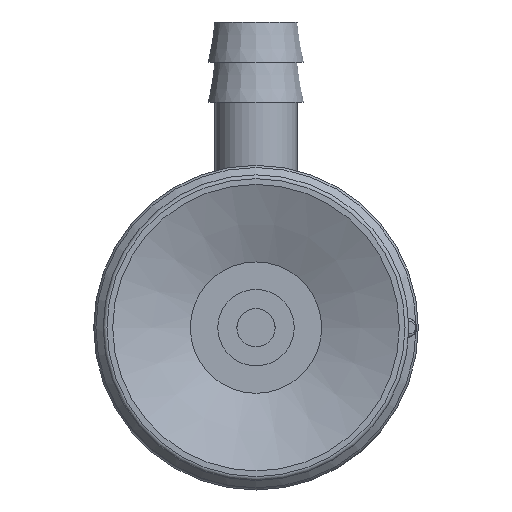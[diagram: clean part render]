
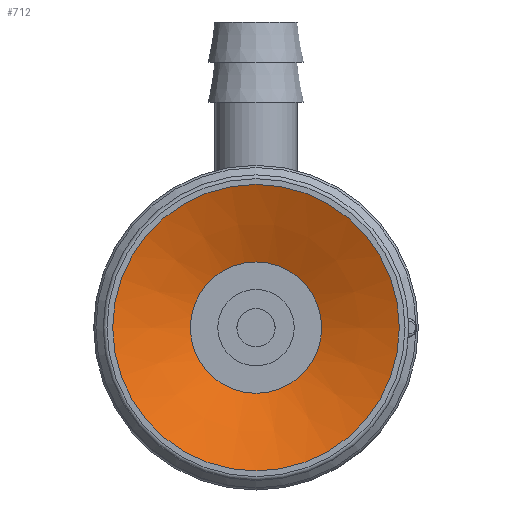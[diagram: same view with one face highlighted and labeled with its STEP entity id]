
A CAD part, front view. The second image highlights one B-rep face of the part: STEP entity #712.
In plain terms, the highlighted conical face has half-angle 67.5 degrees and reference radius 3.437 mm.
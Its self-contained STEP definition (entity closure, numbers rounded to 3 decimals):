
#712=ADVANCED_FACE('',(#1030,#1031),#1032,.F.);
#1030=FACE_BOUND('',#2410,.T.);
#1031=FACE_OUTER_BOUND('',#2411,.T.);
#1032=CONICAL_SURFACE('',#2412,3.437,1.178);
#2410=EDGE_LOOP('',(#3277));
#2411=EDGE_LOOP('',(#3278));
#2412=AXIS2_PLACEMENT_3D('',#3279,#3280,#3281);
#3277=ORIENTED_EDGE('',*,*,#3686,.F.);
#3278=ORIENTED_EDGE('',*,*,#3687,.T.);
#3279=CARTESIAN_POINT('',(0.0,0.0,1.683));
#3280=DIRECTION('',(0.0,0.,-1.0));
#3281=DIRECTION('',(0.0,1.0,0.));
#3686=EDGE_CURVE('',#4117,#4117,#4118,.T.);
#3687=EDGE_CURVE('',#4119,#4119,#4120,.T.);
#4117=VERTEX_POINT('',#5206);
#4118=CIRCLE('',#5207,3.437);
#4119=VERTEX_POINT('',#5208);
#4120=CIRCLE('',#5209,7.5);
#5206=CARTESIAN_POINT('',(-3.437,0.0,1.683));
#5207=AXIS2_PLACEMENT_3D('',#5609,#5610,#5611);
#5208=CARTESIAN_POINT('',(-7.5,0.0,0.));
#5209=AXIS2_PLACEMENT_3D('',#5612,#5613,#5614);
#5609=CARTESIAN_POINT('',(0.0,0.0,1.683));
#5610=DIRECTION('',(0.0,0.,-1.0));
#5611=DIRECTION('',(0.0,1.0,0.));
#5612=CARTESIAN_POINT('',(0.0,0.0,0.));
#5613=DIRECTION('',(0.0,0.,-1.0));
#5614=DIRECTION('',(0.0,1.0,0.));
